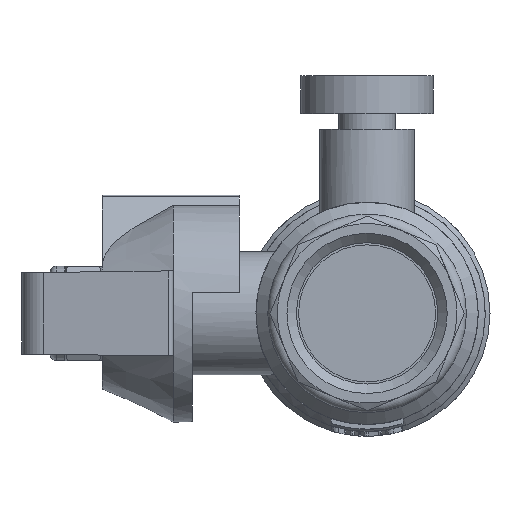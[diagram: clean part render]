
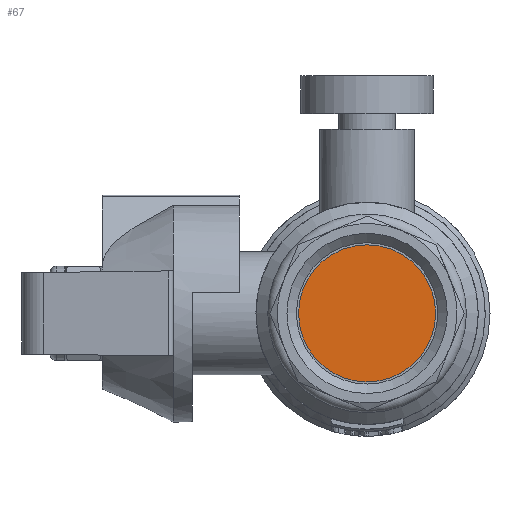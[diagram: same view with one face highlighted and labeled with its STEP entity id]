
A CAD part, left-side view. The second image highlights one B-rep face of the part: STEP entity #67.
In plain terms, the highlighted planar face has unit normal (-1, 0, 0).
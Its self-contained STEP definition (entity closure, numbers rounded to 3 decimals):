
#67=ADVANCED_FACE('',(#321),#323,.F.);
#321=FACE_BOUND('',#322,.T.);
#322=EDGE_LOOP('',(#2155));
#323=PLANE('',#324);
#324=AXIS2_PLACEMENT_3D('',#325,#326,#327);
#325=CARTESIAN_POINT('',(-33.65,0.,0.));
#326=DIRECTION('',(1.,0.,0.));
#327=DIRECTION('',(0.,1.,0.));
#2155=ORIENTED_EDGE('',*,*,#3611,.F.);
#3611=EDGE_CURVE('',#4281,#4281,#4282,.T.);
#4281=VERTEX_POINT('',#5317);
#4282=CIRCLE('',#5318,7.25);
#5317=CARTESIAN_POINT('',(-33.65,7.25,0.));
#5318=AXIS2_PLACEMENT_3D('',#5319,#5320,#5321);
#5319=CARTESIAN_POINT('',(-33.65,0.,0.));
#5320=DIRECTION('',(1.,0.,0.));
#5321=DIRECTION('',(0.,1.,0.));
